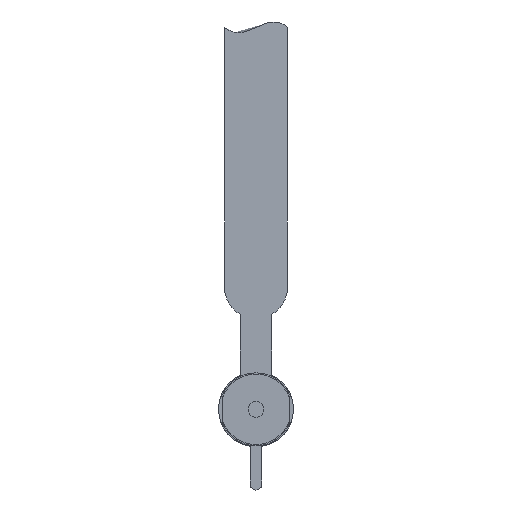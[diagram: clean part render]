
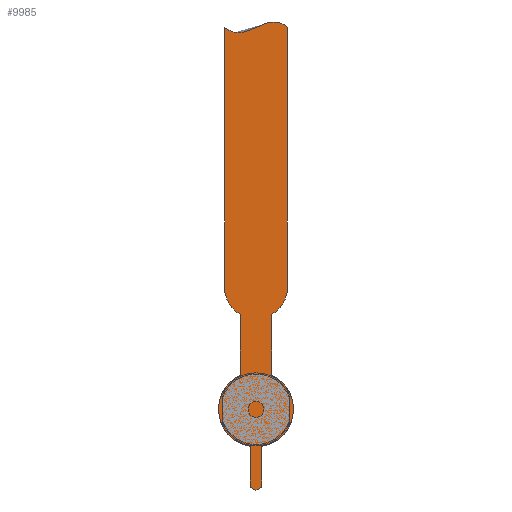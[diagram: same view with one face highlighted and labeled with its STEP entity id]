
A CAD part, front view. The second image highlights one B-rep face of the part: STEP entity #9985.
In plain terms, the highlighted planar face has unit normal (0, -1, 0) as drawn and (0, 1, 0) by its records, which use the part's own axes.
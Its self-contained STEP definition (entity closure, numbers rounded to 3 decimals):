
#9449=DIRECTION('',(1.,0.,0.));
#9450=VECTOR('',#9449,15.455);
#9451=CARTESIAN_POINT('',(8.617,0.,-4.));
#9452=LINE('',#9451,#9450);
#9453=CARTESIAN_POINT('',(31.,0.,0.));
#9454=DIRECTION('',(0.,-1.,0.));
#9455=DIRECTION('',(-0.866,0.,-0.5));
#9456=AXIS2_PLACEMENT_3D('',#9453,#9454,#9455);
#9458=DIRECTION('',(1.,0.,0.));
#9459=VECTOR('',#9458,66.);
#9460=CARTESIAN_POINT('',(31.,0.,-8.));
#9461=LINE('',#9460,#9459);
#9462=CARTESIAN_POINT('',(97.,0.,-8.));
#9463=CARTESIAN_POINT('',(95.54,0.,-6.215));
#9464=CARTESIAN_POINT('',(95.367,0.,-2.371));
#9465=CARTESIAN_POINT('',(98.804,0.,2.752));
#9466=CARTESIAN_POINT('',(98.344,0.,6.407));
#9467=CARTESIAN_POINT('',(97.,0.,8.));
#9469=DIRECTION('',(-1.,0.,0.));
#9470=VECTOR('',#9469,66.);
#9471=CARTESIAN_POINT('',(97.,0.,8.));
#9472=LINE('',#9471,#9470);
#9473=CARTESIAN_POINT('',(31.,0.,0.));
#9474=DIRECTION('',(0.,-1.,0.));
#9475=DIRECTION('',(0.,0.,1.));
#9476=AXIS2_PLACEMENT_3D('',#9473,#9474,#9475);
#9478=CARTESIAN_POINT('',(0.,0.,0.));
#9479=DIRECTION('',(0.,-1.,0.));
#9480=DIRECTION('',(0.907,0.,0.421));
#9481=AXIS2_PLACEMENT_3D('',#9478,#9479,#9480);
#9483=CARTESIAN_POINT('',(-19.,0.,0.));
#9484=DIRECTION('',(0.,-1.,0.));
#9485=DIRECTION('',(0.,0.,1.));
#9486=AXIS2_PLACEMENT_3D('',#9483,#9484,#9485);
#9488=DIRECTION('',(-1.,0.,0.));
#9489=VECTOR('',#9488,9.619);
#9490=CARTESIAN_POINT('',(-9.381,0.,-1.5));
#9491=LINE('',#9490,#9489);
#9492=CARTESIAN_POINT('',(0.,0.,0.));
#9493=DIRECTION('',(0.,1.,0.));
#9494=DIRECTION('',(0.907,0.,-0.421));
#9495=AXIS2_PLACEMENT_3D('',#9492,#9493,#9494);
#9513=DIRECTION('',(1.,0.,0.));
#9514=VECTOR('',#9513,15.455);
#9515=CARTESIAN_POINT('',(8.617,0.,4.));
#9516=LINE('',#9515,#9514);
#9812=DIRECTION('',(-1.,0.,0.));
#9813=VECTOR('',#9812,9.619);
#9814=CARTESIAN_POINT('',(-9.381,0.,1.5));
#9815=LINE('',#9814,#9813);
#9865=CARTESIAN_POINT('',(31.,0.,-8.));
#9866=CARTESIAN_POINT('',(97.,0.,-8.));
#9867=VERTEX_POINT('',#9865);
#9868=VERTEX_POINT('',#9866);
#9869=CARTESIAN_POINT('',(97.,0.,8.));
#9870=CARTESIAN_POINT('',(31.,0.,8.));
#9871=VERTEX_POINT('',#9869);
#9872=VERTEX_POINT('',#9870);
#9909=CARTESIAN_POINT('',(-9.381,0.,1.5));
#9910=VERTEX_POINT('',#9909);
#9912=CARTESIAN_POINT('',(-9.381,0.,-1.5));
#9913=VERTEX_POINT('',#9912);
#9920=CARTESIAN_POINT('',(-19.,0.,-1.5));
#9921=VERTEX_POINT('',#9920);
#9922=CARTESIAN_POINT('',(-19.,0.,1.5));
#9923=VERTEX_POINT('',#9922);
#9936=CARTESIAN_POINT('',(8.617,0.,4.));
#9937=VERTEX_POINT('',#9936);
#9940=CARTESIAN_POINT('',(8.617,0.,-4.));
#9941=VERTEX_POINT('',#9940);
#9942=CARTESIAN_POINT('',(24.072,0.,4.));
#9944=VERTEX_POINT('',#9942);
#9946=CARTESIAN_POINT('',(24.072,0.,-4.));
#9948=VERTEX_POINT('',#9946);
#9954=CARTESIAN_POINT('',(0.,0.,0.));
#9955=DIRECTION('',(0.,-1.,0.));
#9956=DIRECTION('',(-1.,0.,0.));
#9957=AXIS2_PLACEMENT_3D('',#9954,#9955,#9956);
#9958=PLANE('',#9957);
#9960=ORIENTED_EDGE('',*,*,#9959,.T.);
#9962=ORIENTED_EDGE('',*,*,#9961,.T.);
#9964=ORIENTED_EDGE('',*,*,#9963,.T.);
#9966=ORIENTED_EDGE('',*,*,#9965,.T.);
#9968=ORIENTED_EDGE('',*,*,#9967,.T.);
#9970=ORIENTED_EDGE('',*,*,#9969,.T.);
#9972=ORIENTED_EDGE('',*,*,#9971,.F.);
#9974=ORIENTED_EDGE('',*,*,#9973,.T.);
#9976=ORIENTED_EDGE('',*,*,#9975,.T.);
#9978=ORIENTED_EDGE('',*,*,#9977,.T.);
#9980=ORIENTED_EDGE('',*,*,#9979,.F.);
#9982=ORIENTED_EDGE('',*,*,#9981,.F.);
#9983=EDGE_LOOP('',(#9960,#9962,#9964,#9966,#9968,#9970,#9972,#9974,#9976,#9978,
#9980,#9982));
#9984=FACE_OUTER_BOUND('',#9983,.F.);
#9985=ADVANCED_FACE('',(#9984),#9958,.F.);
#9457=CIRCLE('',#9456,8.);
#9468=B_SPLINE_CURVE_WITH_KNOTS('',3,(#9462,#9463,#9464,#9465,#9466,#9467),
.UNSPECIFIED.,.F.,.F.,(4,1,1,4),(0.,0.315,0.713,1.),
.UNSPECIFIED.);
#9477=CIRCLE('',#9476,8.);
#9482=CIRCLE('',#9481,9.5);
#9487=CIRCLE('',#9486,1.5);
#9496=CIRCLE('',#9495,9.5);
#9959=EDGE_CURVE('',#9941,#9948,#9452,.T.);
#9961=EDGE_CURVE('',#9948,#9867,#9457,.T.);
#9963=EDGE_CURVE('',#9867,#9868,#9461,.T.);
#9965=EDGE_CURVE('',#9868,#9871,#9468,.T.);
#9967=EDGE_CURVE('',#9871,#9872,#9472,.T.);
#9969=EDGE_CURVE('',#9872,#9944,#9477,.T.);
#9971=EDGE_CURVE('',#9937,#9944,#9516,.T.);
#9973=EDGE_CURVE('',#9937,#9910,#9482,.T.);
#9975=EDGE_CURVE('',#9910,#9923,#9815,.T.);
#9977=EDGE_CURVE('',#9923,#9921,#9487,.T.);
#9979=EDGE_CURVE('',#9913,#9921,#9491,.T.);
#9981=EDGE_CURVE('',#9941,#9913,#9496,.T.);
